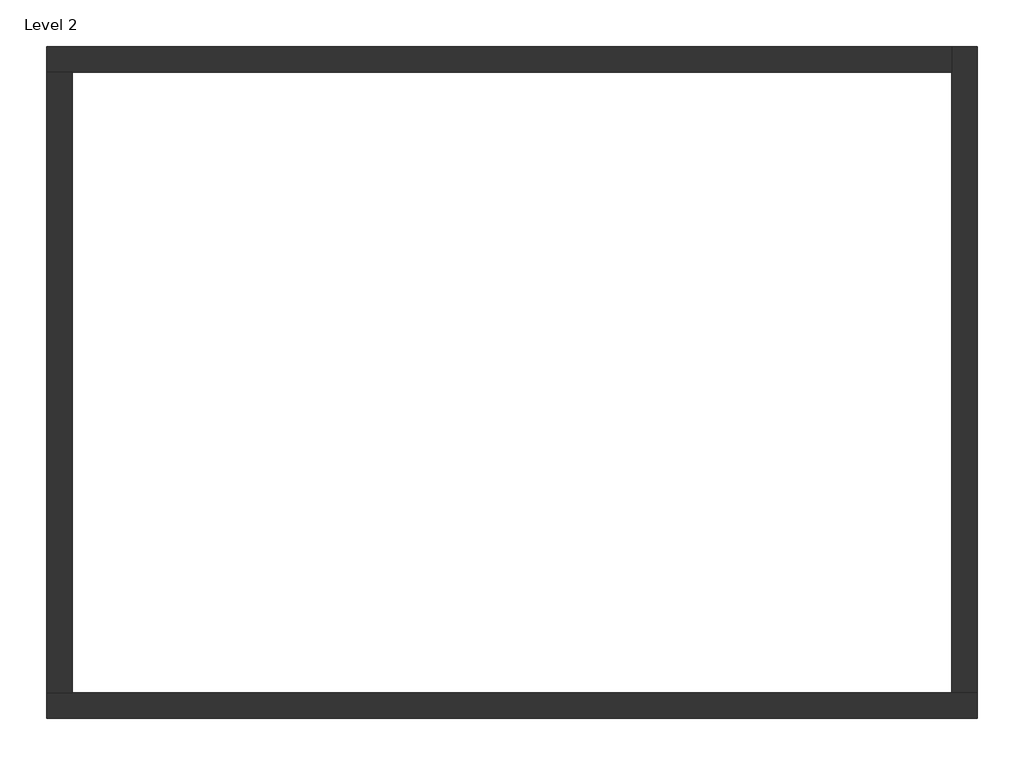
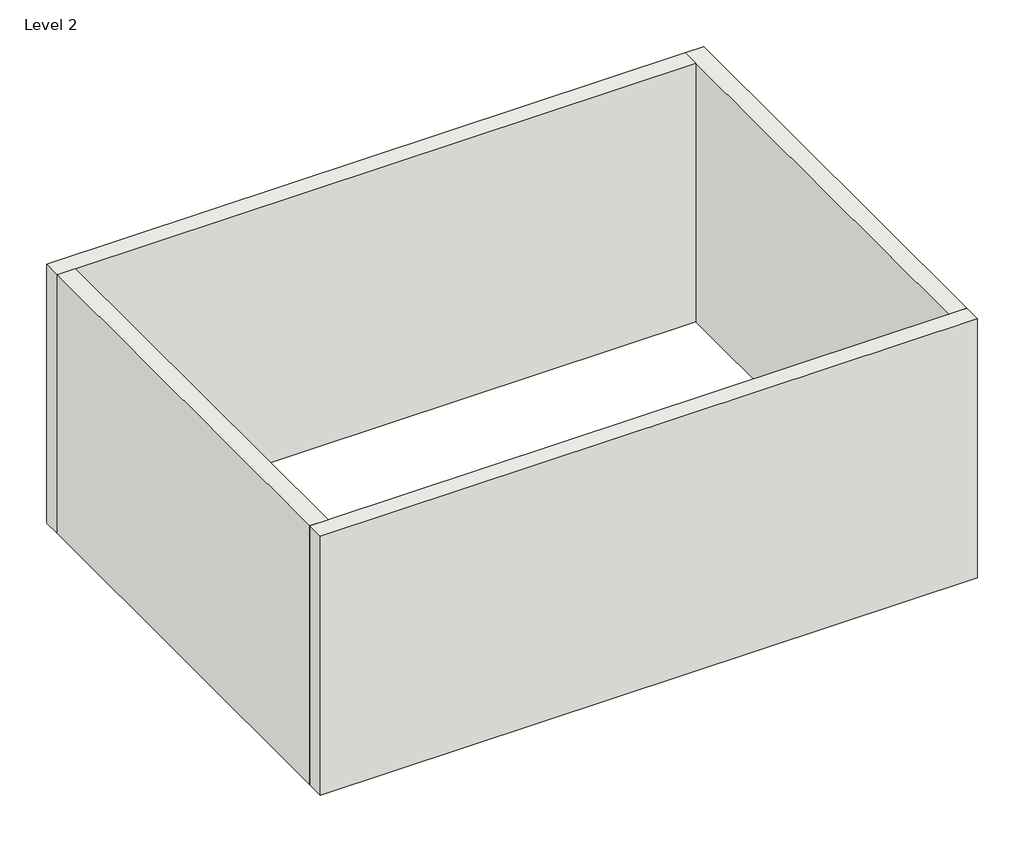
# One storey: 4 walls.
"""IFC4 building model written with IfcOpenShell, lengths in millimetres."""

from ifc_helpers import new_model, si_unit, frame, origin, place, context, project, spatial, polyline, outline, extrude, faceted_brep, element, save

model = new_model("IFC4")

# Units and contexts
model_context = context("Model", 3, world=origin())
ifc_project = project(units=[si_unit("LENGTHUNIT", "METRE", prefix="MILLI")], contexts=[model_context])

# Site, building, storey
site = spatial("IfcSite", under=ifc_project)
building = spatial("IfcBuilding", under=site)
storey = spatial("IfcBuildingStorey", under=building, Name="Level 2", Elevation=3000.0)

# Walls
placement = place(None, origin())
element("IfcWall", 1, ObjectType="Generic - 200mm", at=placement, inside=storey, context=model_context, shape_type="Brep", body=[
    faceted_brep([(-10736.9407541, 1994.1939588, 3000.0), (-3536.9407541, 1994.1939588, 3000.0), (-3536.9407541, 1994.1939588, 6000.0), (-10736.9407541, 1994.1939588, 6000.0), (-10736.9407541, 2194.1939588, 3000.0), (-10736.9407541, 2194.1939588, 6000.0), (-10536.9407541, 2194.1939588, 6000.0), (-3736.9407541, 2194.1939588, 6000.0), (-3536.9407541, 2194.1939588, 6000.0), (-3536.9407541, 2194.1939588, 3000.0), (-3736.9407541, 2194.1939588, 3000.0), (-10536.9407541, 2194.1939588, 3000.0)], [[[0, 1, 2, 3]], [[4, 5, 6, 7, 8, 9, 10, 11]], [[1, 0, 4, 11, 10, 9]], [[3, 2, 8, 7, 6, 5]], [[2, 1, 9, 8]], [[0, 3, 5, 4]]]),
])
element("IfcWall", 2, ObjectType="Generic - 200mm", at=placement, inside=storey, context=model_context, shape_type="Brep", body=[
    faceted_brep([(-3536.9407541, 2194.1939588, 3000.0), (-3536.9407541, 7194.1939588, 3000.0), (-3536.9407541, 7194.1939588, 6000.0), (-3536.9407541, 2194.1939588, 6000.0), (-3736.9407541, 2194.1939588, 3000.0), (-3736.9407541, 2194.1939588, 6000.0), (-3736.9407541, 6994.1939588, 6000.0), (-3736.9407541, 7194.1939588, 6000.0), (-3736.9407541, 7194.1939588, 3000.0), (-3736.9407541, 6994.1939588, 3000.0)], [[[0, 1, 2, 3]], [[4, 5, 6, 7, 8, 9]], [[1, 0, 4, 9, 8]], [[3, 2, 7, 6, 5]], [[0, 3, 5, 4]], [[2, 1, 8, 7]]]),
])
element("IfcWall", 3, ObjectType="Generic - 200mm", at=placement, inside=storey, context=model_context, shape_type="Brep", body=[
    faceted_brep([(-3736.9407541, 7194.1939588, 3000.0), (-10736.9407541, 7194.1939588, 3000.0), (-10736.9407541, 7194.1939588, 6000.0), (-3736.9407541, 7194.1939588, 6000.0), (-3736.9407541, 6994.1939588, 3000.0), (-3736.9407541, 6994.1939588, 6000.0), (-10536.9407541, 6994.1939588, 6000.0), (-10736.9407541, 6994.1939588, 6000.0), (-10736.9407541, 6994.1939588, 3000.0), (-10536.9407541, 6994.1939588, 3000.0)], [[[0, 1, 2, 3]], [[4, 5, 6, 7, 8, 9]], [[1, 0, 4, 9, 8]], [[3, 2, 7, 6, 5]], [[0, 3, 5, 4]], [[2, 1, 8, 7]]]),
])
element("IfcWall", 4, ObjectType="Generic - 200mm", at=placement, inside=storey, context=model_context, shape_type="SweptSolid", body=[
    extrude(outline(polyline([(-10736.9407541, 2194.1939588), (-10736.9407541, 6994.1939588), (-10536.9407541, 6994.1939588), (-10536.9407541, 2194.1939588), (-10736.9407541, 2194.1939588)])), frame((0.0, 0.0, 3000.0), z_axis=(0.0, 0.0, 1.0), x_axis=(1.0, 0.0, 0.0)), (0.0, 0.0, 1.0), 3000.0),
])

save(model, "model.ifc")
